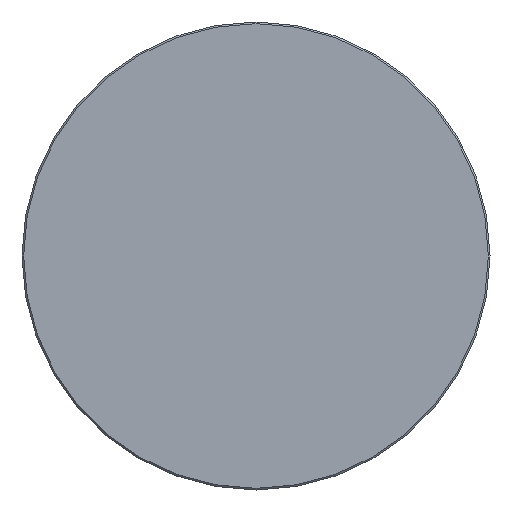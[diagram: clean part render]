
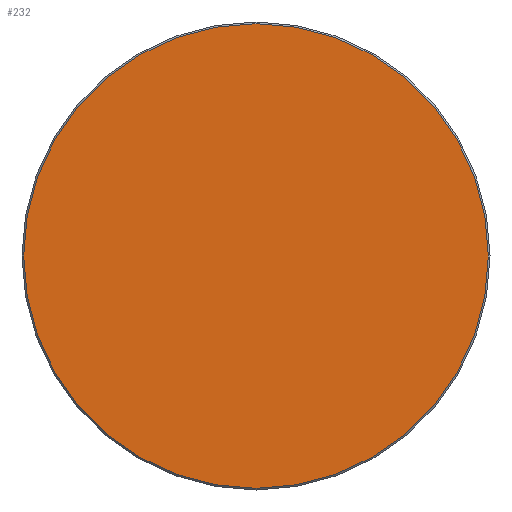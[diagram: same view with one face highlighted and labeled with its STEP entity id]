
A CAD part, left-side view. The second image highlights one B-rep face of the part: STEP entity #232.
In plain terms, the highlighted planar face has unit normal (-1, 0, 0).
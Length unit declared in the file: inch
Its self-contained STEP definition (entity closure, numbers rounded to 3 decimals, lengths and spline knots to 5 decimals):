
#7 = ORIENTED_EDGE ( 'NONE', *, *, #250, .T. ) ;
#8 = AXIS2_PLACEMENT_3D ( 'NONE', #221, #329, #163 ) ;
#18 = EDGE_CURVE ( 'NONE', #123, #236, #35, .T. ) ;
#22 = DIRECTION ( 'NONE',  ( 0., -1., 0. ) ) ;
#25 = CARTESIAN_POINT ( 'NONE',  ( 0., 0., 0. ) ) ;
#35 = CIRCLE ( 'NONE', #223, 0.5585 ) ;
#76 = CARTESIAN_POINT ( 'NONE',  ( 0., -0.5585, 0. ) ) ;
#105 = DIRECTION ( 'NONE',  ( 0., -1., 0. ) ) ;
#116 = DIRECTION ( 'NONE',  ( -1., 0., 0. ) ) ;
#123 = VERTEX_POINT ( 'NONE', #235 ) ;
#141 = ORIENTED_EDGE ( 'NONE', *, *, #18, .T. ) ;
#163 = DIRECTION ( 'NONE',  ( 0., -1., 0. ) ) ;
#188 = DIRECTION ( 'NONE',  ( -1., 0., 0. ) ) ;
#196 = EDGE_LOOP ( 'NONE', ( #141, #7 ) ) ;
#214 = CIRCLE ( 'NONE', #287, 0.5585 ) ;
#221 = CARTESIAN_POINT ( 'NONE',  ( 0., 0., 0. ) ) ;
#223 = AXIS2_PLACEMENT_3D ( 'NONE', #25, #116, #22 ) ;
#229 = FACE_OUTER_BOUND ( 'NONE', #196, .T. ) ;
#232 = ADVANCED_FACE ( 'NONE', ( #229 ), #336, .T. ) ;
#235 = CARTESIAN_POINT ( 'NONE',  ( 0., 0.5585, 0. ) ) ;
#236 = VERTEX_POINT ( 'NONE', #76 ) ;
#250 = EDGE_CURVE ( 'NONE', #236, #123, #214, .T. ) ;
#276 = CARTESIAN_POINT ( 'NONE',  ( 0., 0., 0. ) ) ;
#287 = AXIS2_PLACEMENT_3D ( 'NONE', #276, #188, #105 ) ;
#329 = DIRECTION ( 'NONE',  ( -1., 0., 0. ) ) ;
#336 = PLANE ( 'NONE',  #8 ) ;
